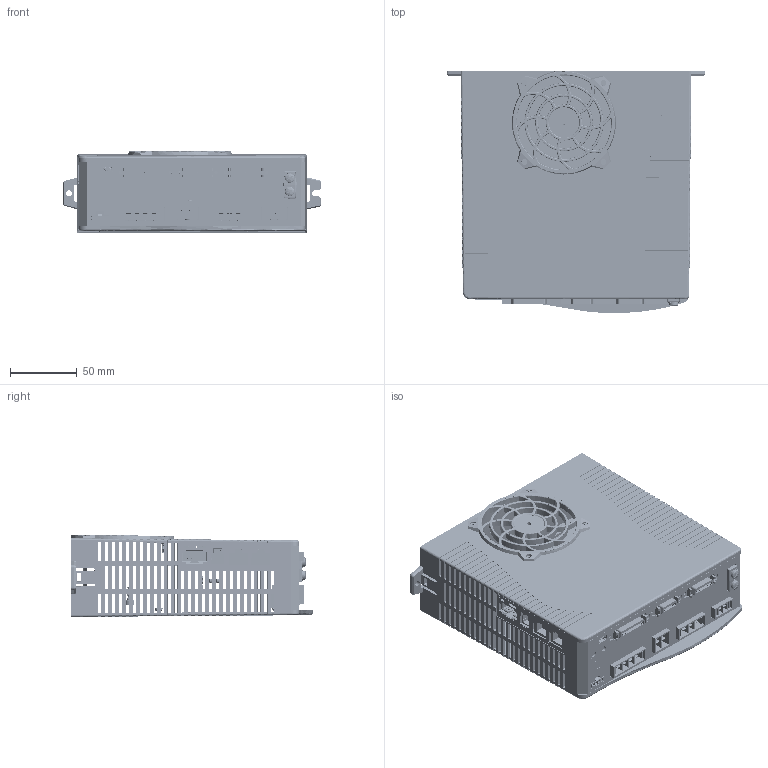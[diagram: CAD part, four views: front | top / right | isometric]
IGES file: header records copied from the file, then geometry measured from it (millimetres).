
Start section: SolidWorks IGES file using analytic representation for surfaces
Global section: file name: H:\ANaivelt\Roni\CDHD Catalog\CDHD_200V\CDHD 13A\CDHD-13A_cat.IGS; native system: SolidWorks 2009; preprocessor: SolidWorks 2009; author: Alexander.Naivelt; date: 140512.104229; units: millimetre
Bounding box: 194.32 x 181.9 x 61.79 mm (x, y, z)
Surface area: 299335.2 mm2 (no closed solid volume)
Topology: 0 solids, 0 shells, 18331 faces, 140300 edges, 140257 vertices
Faces by surface type: bspline 14142, revolution 4189
